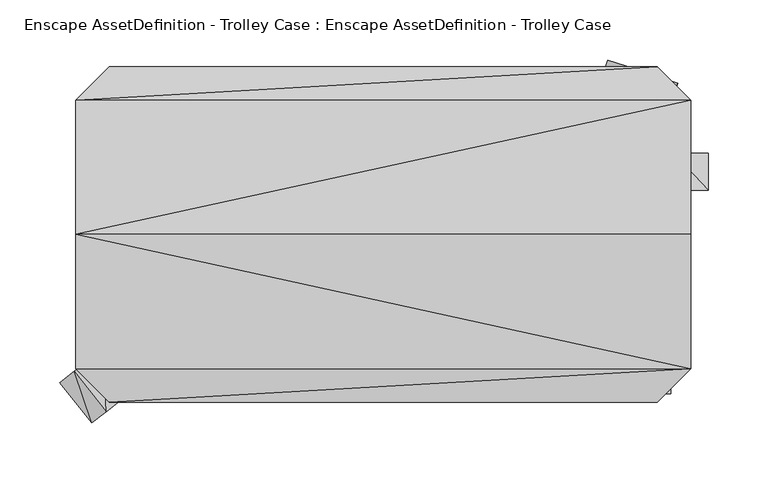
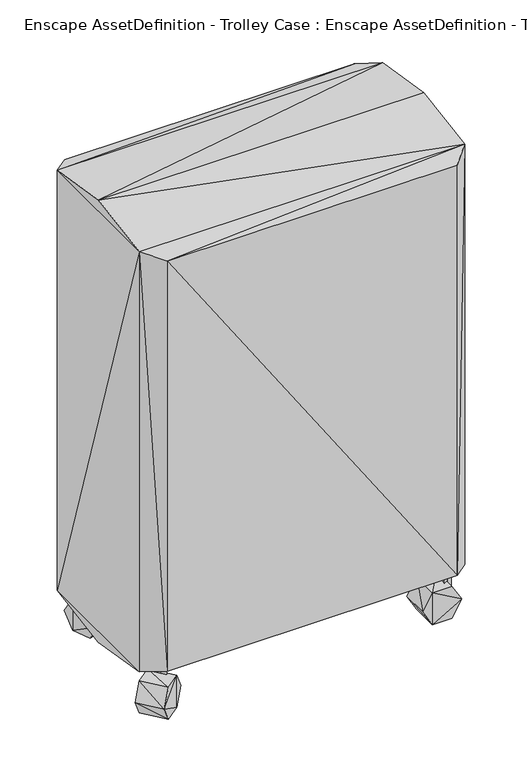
"""IFC4 building model written with IfcOpenShell, lengths in millimetres: geographic element geometry, Enscape AssetDefinition - Trolley Case : Enscape AssetDefinition - Trolley Case."""

from ifc_helpers import new_model, si_unit, origin, place, context, project, spatial, faceted_brep, source, transform, mapped, element, save


def enscape_assetdefinition_trolley_case_enscape_assetdefinition_97d0b9c1(model_context):
    return source(origin(), model_context, "Body", "Brep", [
        faceted_brep([(-260.2800131, -11.5320012, 784.694016), (252.7490258, -123.6490086, 766.6610479), (252.7490258, -11.5320012, 784.694016), (-260.2800131, -123.6490086, 766.6610479), (252.7490258, 100.5850136, 766.6610479), (-232.3970199, -151.5320092, 757.9171062), (224.8670161, -151.5320092, 757.9171062), (252.7490258, 100.5850136, 65.5300021), (252.7490258, -123.6490086, 65.5300021), (224.8670161, -151.5320092, 74.2750019), (-260.2800131, 100.5850136, 766.6610479), (224.8670161, 128.4680068, 757.9171062), (-232.3970199, 128.4680068, 757.9171062), (-260.2800131, 100.5850136, 65.5300021), (-232.3970199, 128.4680068, 74.2750019), (224.8670161, 128.4680068, 74.2750019), (-260.2800131, -123.6490086, 65.5300021), (-260.2800131, -11.5320012, 47.4970043), (252.7490258, -11.5320012, 47.4970043), (-232.3970199, -151.5320092, 74.2750019)], [[[0, 1, 2]], [[1, 0, 3]], [[1, 4, 2]], [[1, 5, 6]], [[5, 1, 3]], [[7, 1, 8]], [[1, 7, 4]], [[9, 1, 6]], [[1, 9, 8]], [[4, 0, 2]], [[0, 4, 10]], [[10, 3, 0]], [[10, 11, 12]], [[11, 10, 4]], [[13, 3, 10]], [[12, 13, 10]], [[14, 11, 15]], [[11, 14, 12]], [[4, 15, 11]], [[13, 12, 14]], [[15, 13, 14]], [[3, 13, 16]], [[7, 17, 13]], [[17, 16, 13]], [[13, 15, 7]], [[15, 4, 7]], [[17, 7, 18]], [[18, 7, 8]], [[17, 8, 16]], [[8, 17, 18]], [[19, 3, 16]], [[8, 19, 16]], [[3, 19, 5]], [[19, 8, 9]], [[9, 5, 19]], [[5, 9, 6]]]),
        faceted_brep([(238.4400219, 25.4960023, 509.3570352), (238.4400219, 56.1220013, 315.1570261), (238.4400219, 25.4960023, 315.1570261), (238.4400219, 56.1220013, 509.3570352), (267.2810256, 56.1220013, 340.0920331), (267.2810256, 56.1220013, 492.0520484), (267.2810256, 25.4960023, 340.0920331), (267.2810256, 25.4960023, 492.0520484)], [[[0, 1, 2]], [[1, 0, 3]], [[4, 2, 1]], [[1, 5, 4]], [[5, 1, 3]], [[6, 0, 2]], [[2, 4, 6]], [[0, 6, 7]], [[7, 3, 0]], [[3, 7, 5]], [[7, 4, 5]], [[4, 7, 6]]]),
        faceted_brep([(189.999029, -101.4000103, 52.5030047), (189.999029, -101.4000103, -0.7660001), (174.6220142, -101.4000103, 25.8690026), (236.1320108, -101.4000103, 25.8690026), (220.7540125, -101.4000103, -0.7660001), (189.999029, -144.156009, -0.7660001), (220.7540125, -144.156009, -0.7660001), (174.6220142, -144.156009, 25.8680023), (220.7540125, -101.4000103, 52.5030047), (189.999029, -144.156009, 52.5030047), (236.1320108, -144.156009, 25.8680023), (220.7540125, -144.156009, 52.5030047)], [[[0, 1, 2]], [[3, 1, 0]], [[3, 4, 1]], [[5, 2, 1]], [[6, 1, 4]], [[1, 6, 5]], [[7, 0, 2]], [[2, 5, 7]], [[3, 0, 8]], [[9, 8, 0]], [[0, 7, 9]], [[5, 9, 7]], [[5, 10, 9]], [[5, 6, 10]], [[4, 10, 6]], [[10, 4, 3]], [[11, 3, 8]], [[3, 11, 10]], [[8, 9, 11]], [[9, 10, 11]]]),
        faceted_brep([(215.2190208, -114.3230051, 84.0530097), (231.7130268, -123.8460019, 19.5240006), (215.2190208, -114.3230051, 19.5240006), (231.7130268, -123.8460019, 84.0530097), (215.2190208, -133.3690137, 19.5240006), (220.7170129, -123.8460019, 19.5240006), (215.2190208, -133.3690137, 84.0530097)], [[[0, 1, 2]], [[1, 0, 3]], [[3, 4, 1]], [[5, 2, 1]], [[5, 1, 4]], [[6, 2, 4]], [[2, 6, 0]], [[5, 4, 2]], [[0, 6, 3]], [[4, 3, 6]]]),
        faceted_brep([(198.311016, 129.2660087, 52.5030047), (198.311016, 129.2660087, -0.7660001), (183.6990118, 134.0580136, 25.8690026), (242.1470284, 114.8920059, 25.8690026), (227.5350094, 119.6830049, -0.7660001), (184.8000139, 88.0640075, -0.7660001), (214.0240073, 78.4810111, -0.7660001), (170.1880246, 92.8560048, 25.8680023), (227.5350094, 119.6830049, 52.5030047), (184.8000139, 88.0640075, 52.5030047), (228.6360115, 73.6900046, 25.8680023), (214.0240073, 78.4810111, 52.5030047)], [[[0, 1, 2]], [[3, 1, 0]], [[3, 4, 1]], [[5, 2, 1]], [[6, 1, 4]], [[1, 6, 5]], [[7, 0, 2]], [[2, 5, 7]], [[3, 0, 8]], [[9, 8, 0]], [[0, 7, 9]], [[5, 9, 7]], [[5, 10, 9]], [[5, 6, 10]], [[4, 10, 6]], [[10, 4, 3]], [[11, 3, 8]], [[3, 11, 10]], [[8, 9, 11]], [[9, 10, 11]]]),
        faceted_brep([(218.0010229, 109.8480076, 84.0530097), (230.7060212, 95.6600085, 19.5240006), (218.0010229, 109.8480076, 19.5240006), (230.7060212, 95.6600085, 84.0530097), (212.0660096, 91.7500108, 19.5240006), (220.2580273, 99.086009, 19.5240006), (212.0660096, 91.7500108, 84.0530097)], [[[0, 1, 2]], [[1, 0, 3]], [[3, 4, 1]], [[5, 2, 1]], [[5, 1, 4]], [[6, 2, 4]], [[2, 6, 0]], [[5, 4, 2]], [[0, 6, 3]], [[4, 3, 6]]]),
        faceted_brep([(-210.7790112, -140.2300149, 52.5030047), (-210.7790112, -140.2300149, -0.7660001), (-198.6710131, -130.7500005, 25.8690026), (-247.1030205, -168.6690003, 25.8690026), (-234.9950224, -159.1890007, -0.7660001), (-237.1360213, -106.5640077, -0.7660001), (-261.3520324, -125.5239993, -0.7660001), (-225.0280231, -97.0850065, 25.8680023), (-234.9950224, -159.1890007, 52.5030047), (-237.1360213, -106.5640077, 52.5030047), (-273.4600306, -135.0030154, 25.8680023), (-261.3520324, -125.5239993, 52.5030047)], [[[0, 1, 2]], [[3, 1, 0]], [[3, 4, 1]], [[5, 2, 1]], [[6, 1, 4]], [[1, 6, 5]], [[7, 0, 2]], [[2, 5, 7]], [[3, 0, 8]], [[9, 8, 0]], [[0, 7, 9]], [[5, 9, 7]], [[5, 10, 9]], [[5, 6, 10]], [[4, 10, 6]], [[10, 4, 3]], [[11, 3, 8]], [[3, 11, 10]], [[8, 9, 11]], [[9, 10, 11]]]),
        faceted_brep([(-233.4730178, -117.3970103, 84.0530097), (-214.6150172, -114.7270128, 19.5240006), (-233.4730178, -117.3970103, 19.5240006), (-214.6150172, -114.7270128, 84.0530097), (-221.7320204, -132.3930025, 19.5240006), (-223.2730091, -121.506013, 19.5240006), (-221.7320204, -132.3930025, 84.0530097)], [[[0, 1, 2]], [[1, 0, 3]], [[3, 4, 1]], [[5, 2, 1]], [[5, 1, 4]], [[6, 2, 4]], [[2, 6, 0]], [[5, 4, 2]], [[0, 6, 3]], [[4, 3, 6]]]),
        faceted_brep([(-201.8580139, 104.9250141, 52.5030047), (-201.8580139, 104.9250141, -0.7660001), (-207.2430253, 119.3290129, 25.8690026), (-185.7030094, 61.7140047, 25.8690026), (-191.0880208, 76.1180073, -0.7660001), (-241.9070154, 89.9530128, -0.7660001), (-231.1370224, 61.1450039, -0.7660001), (-247.2920269, 104.3570116, 25.8680023), (-191.0880208, 76.1180073, 52.5030047), (-241.9070154, 89.9530128, 52.5030047), (-225.7520109, 46.7420034, 25.8680023), (-231.1370224, 61.1450039, 52.5030047)], [[[0, 1, 2]], [[3, 1, 0]], [[3, 4, 1]], [[5, 2, 1]], [[6, 1, 4]], [[1, 6, 5]], [[7, 0, 2]], [[2, 5, 7]], [[3, 0, 8]], [[9, 8, 0]], [[0, 7, 9]], [[5, 9, 7]], [[5, 10, 9]], [[5, 6, 10]], [[4, 10, 6]], [[10, 4, 3]], [[11, 3, 8]], [[3, 11, 10]], [[8, 9, 11]], [[9, 10, 11]]]),
        faceted_brep([(-229.3390185, 90.6010047, 84.0530097), (-226.1950076, 109.3860045, 19.5240006), (-229.3390185, 90.6010047, 19.5240006), (-226.1950076, 109.3860045, 84.0530097), (-211.5000039, 97.2710103, 19.5240006), (-222.3450243, 99.086009, 19.5240006), (-211.5000039, 97.2710103, 84.0530097)], [[[0, 1, 2]], [[1, 0, 3]], [[3, 4, 1]], [[5, 2, 1]], [[5, 1, 4]], [[6, 2, 4]], [[2, 6, 0]], [[5, 4, 2]], [[0, 6, 3]], [[4, 3, 6]]]),
    ])


if __name__ == "__main__":
    model = new_model("IFC4")
    model_context = context("Model", 3, world=origin())
    ifc_project = project(units=[si_unit("LENGTHUNIT", "METRE", prefix="MILLI")], contexts=[model_context])
    site = spatial("IfcSite", under=ifc_project)
    building = spatial("IfcBuilding", under=site)
    placement = place(None, origin())
    enscape_assetdefinition_trolley_case_enscape_assetdefinition_shape = enscape_assetdefinition_trolley_case_enscape_assetdefinition_97d0b9c1(model_context)
    element("IfcGeographicElement", 1, ObjectType="Enscape AssetDefinition - Trolley Case : Enscape AssetDefinition - Trolley Case", at=placement, inside=building, context=model_context, shape_type="MappedRepresentation", body=[
        mapped(enscape_assetdefinition_trolley_case_enscape_assetdefinition_shape, transform((0.0, 0.0, 0.0), x_axis=(1.0, 0.0, 0.0), y_axis=(0.0, 1.0, 0.0), z_axis=(0.0, 0.0, 1.0))),
    ])
    save(model, "model.ifc")
